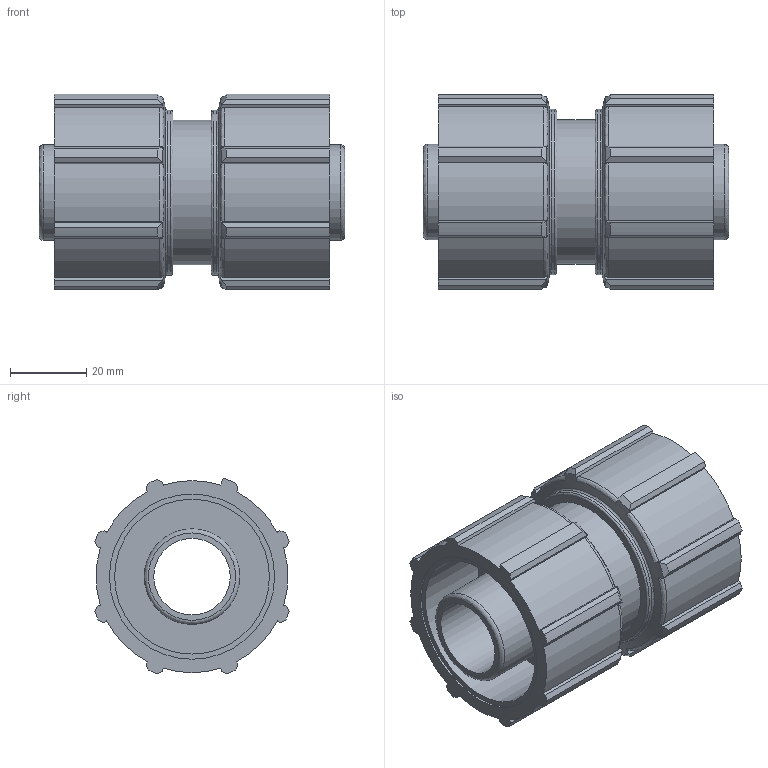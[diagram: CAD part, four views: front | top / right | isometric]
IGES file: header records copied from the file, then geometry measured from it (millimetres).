
Global section: file name: 079400025__0794060250A.ipt; native system: Autodesk Inventor 2015; preprocessor: unknown; author: KIM; date: 20180731.142051; units: millimetre
Bounding box: 80 x 50.81 x 51.16 mm (x, y, z)
Volume: 81720.3 mm3; surface area: 30894.9 mm2
Topology: 1 solids, 1 shells, 154 faces, 446 edges, 302 vertices
Faces by surface type: plane 72, cylinder 37, revolution 27, cone 18
Full cylindrical faces by diameter (mm): 25 x2, 37.8 x1, 43.2 x2
